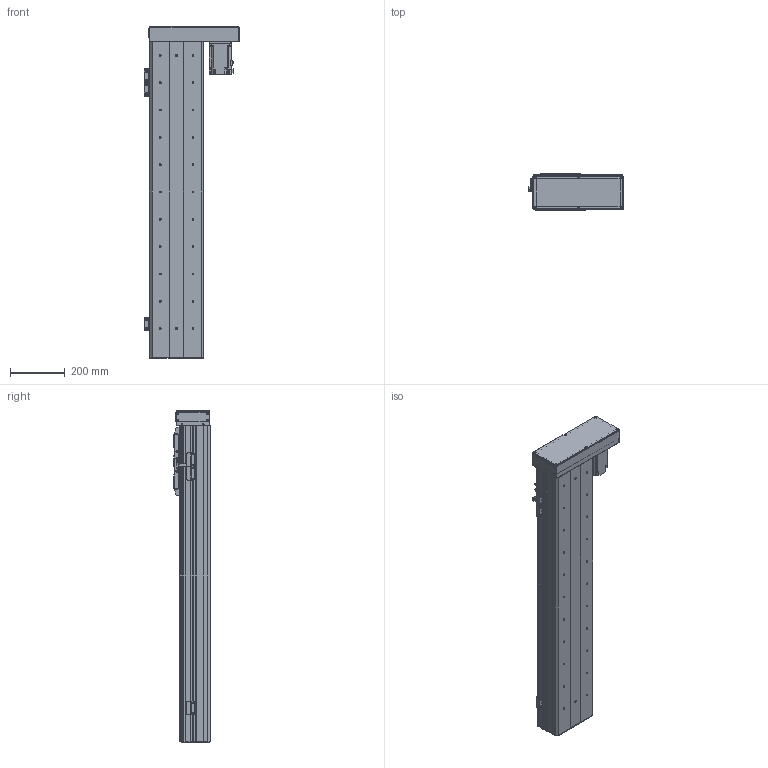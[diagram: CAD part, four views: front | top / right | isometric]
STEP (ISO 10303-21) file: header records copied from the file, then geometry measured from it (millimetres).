
FILE_DESCRIPTION(/* description */ ('MANUFACTURE'),/* implementation_level */ '2;1');
FILE_NAME(/* name */ '\\192.168.0.160\disk1\HAN SHIN Master\B-설계부문\C-표준\B-2024년\BC02-표준도면\+로봇 개선표준도면\표준 승인도 폴더 - 재작업\3D\HC Type\HC200\우병렬\HC200-R70-N-0900-L10.stp',/* time_stamp */ '2024-03-25T10:33:48+09:00',/* author */ ('User'),/* organization */ (''),/* preprocessor_version */ 'ST-DEVELOPER v18.1',/* originating_system */ 'Autodesk Inventor 2022',/* authorisation */ 'LIP');
FILE_SCHEMA (('AUTOMOTIVE_DESIGN { 1 0 10303 214 3 1 1 }'));
Products named in the file (28): HC200-R70-N-0500-L10 - 간소화; HC200 S BASE F - 1100ST; HC90 REAR COVER; HC200 TABLE COVER - 개주; HC200-STEEL SHEET F - 1100ST; LMKE2020 NUT; HR180 FRONT BLOCK; HR120 STOPPER; HC200 TABLE; HR180 FRONT BLOCK_1; HC200 SIDE COVER F - 1100ST; HC140 SHEET PLATE; HC65 TABLE SIDE COVER; M-5UT; M-5H-4; hg-kr73_; 750W MOTOR PLATE; HR200 ACRYL COVER -1; HR200 ACRYL COVER -1_1; HR160 400W LR BELT COVER; HR200 ACRYL COVER -1_2; 화살표; HG200 750W LR MOTOR PLATE_MIR; HC75 SENSOR DOG; SENSOR BRK(EE-SX674A); EE_SX674A; hsr_ftht_A-M6F_grease_nipple_joint; NIPPLE CAP(신규)
Assembly tree (49 placements, depth 2):
  HC200-R70-N-0500-L10 - 간소화
    HC200 S BASE F - 1100ST
    HC90 REAR COVER
    HC200 TABLE COVER - 개주
    HC65 TABLE SIDE COVER  x2
    HC200-STEEL SHEET F - 1100ST
    LMKE2020 NUT
    HR120 STOPPER  x2
    HR180 FRONT BLOCK
    HC200 SIDE COVER F - 1100ST  x2
    HC200 TABLE
    HR180 FRONT BLOCK_1
    HC140 SHEET PLATE  x2
    hsr_ftht_A-M6F_grease_nipple_joint  x5
    NIPPLE CAP(신규)  x5
    M-5UT  x2
    M-5H-4  x4
    hg-kr73_
    750W MOTOR PLATE
    HR200 ACRYL COVER -1
    HR200 ACRYL COVER -1_1
    HR200 ACRYL COVER -1_2  x2
    HR160 400W LR BELT COVER
    화살표  x2
    HG200 750W LR MOTOR PLATE_MIR
    HC75 SENSOR DOG
    SENSOR BRK(EE-SX674A)  x3
    EE_SX674A  x3
Bounding box: 351 x 132 x 1216 mm (x, y, z)
Volume: 9376310.3 mm3; surface area: 2779305 mm2
Topology: 51 solids, 51 shells, 4379 faces, 11918 edges, 7827 vertices
Faces by surface type: plane 3038, cylinder 891, cone 356, sphere 44, torus 30, bspline 20
Full cylindrical faces by diameter (mm): 1.8 x4, 2 x6, 2.459 x58, 2.5 x6, 3 x16, 3.242 x23, 3.4 x24, 3.5 x12, 4 x6, 4.134 x12, 4.5 x26, 4.917 x29, 5 x26, 5.5 x5, 5.6 x5, 5.9 x4, 6 x11, 6.5 x14, 6.6 x32, 6.647 x32, 6.8 x2, 7 x10, 7.6 x4, 8 x6, 9 x10, 9.5 x1, 10.5 x8, 11 x36, 19 x1, 20 x1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
Entity records: 112781 total; most frequent: CARTESIAN_POINT 20547, ORIENTED_EDGE 19084, DIRECTION 18086, EDGE_CURVE 9542, LINE 7852, VECTOR 7852, VERTEX_POINT 6353, AXIS2_PLACEMENT_3D 5117
